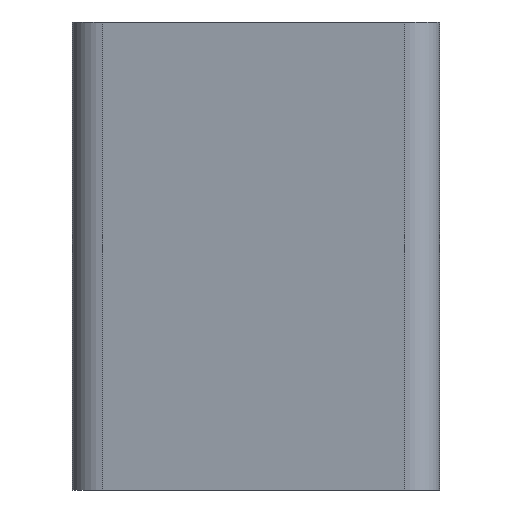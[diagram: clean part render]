
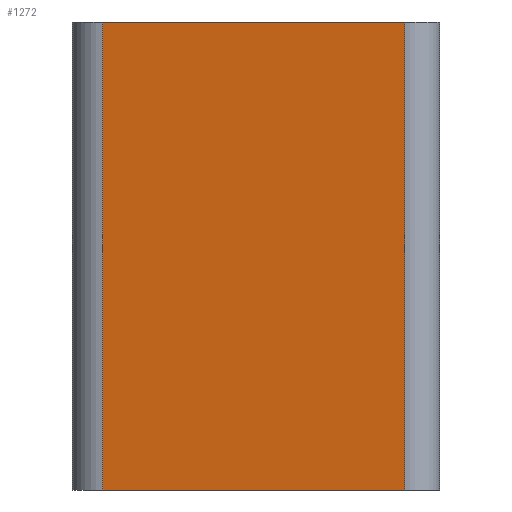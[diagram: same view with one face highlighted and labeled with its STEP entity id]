
A CAD part, left-side view. The second image highlights one B-rep face of the part: STEP entity #1272.
In plain terms, the highlighted planar face has unit normal (-0.985, 0.174, 0).
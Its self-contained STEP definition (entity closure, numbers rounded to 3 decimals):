
#66=DIRECTION('',(0.174,0.985,0.));
#67=VECTOR('',#66,45.871);
#68=CARTESIAN_POINT('',(-77.5,5.281,35.));
#69=LINE('',#68,#67);
#475=DIRECTION('',(0.,0.,1.));
#476=VECTOR('',#475,70.);
#477=CARTESIAN_POINT('',(-69.535,50.455,-35.));
#478=LINE('',#477,#476);
#484=DIRECTION('',(0.,0.,1.));
#485=VECTOR('',#484,70.);
#486=CARTESIAN_POINT('',(-77.5,5.281,-35.));
#487=LINE('',#486,#485);
#488=DIRECTION('',(0.174,0.985,0.));
#489=VECTOR('',#488,45.871);
#490=CARTESIAN_POINT('',(-77.5,5.281,-35.));
#491=LINE('',#490,#489);
#697=CARTESIAN_POINT('',(-69.535,50.455,-35.));
#698=CARTESIAN_POINT('',(-69.535,50.455,35.));
#699=VERTEX_POINT('',#697);
#700=VERTEX_POINT('',#698);
#705=CARTESIAN_POINT('',(-77.5,5.281,-35.));
#706=VERTEX_POINT('',#705);
#707=CARTESIAN_POINT('',(-77.5,5.281,35.));
#708=VERTEX_POINT('',#707);
#1260=CARTESIAN_POINT('',(-77.5,5.281,-35.));
#1261=DIRECTION('',(-0.985,0.174,0.));
#1262=DIRECTION('',(0.,0.,1.));
#1263=AXIS2_PLACEMENT_3D('',#1260,#1261,#1262);
#1264=PLANE('',#1263);
#1266=ORIENTED_EDGE('',*,*,#1265,.F.);
#1267=ORIENTED_EDGE('',*,*,#957,.T.);
#1268=ORIENTED_EDGE('',*,*,#1252,.T.);
#1269=ORIENTED_EDGE('',*,*,#850,.F.);
#1270=EDGE_LOOP('',(#1266,#1267,#1268,#1269));
#1271=FACE_OUTER_BOUND('',#1270,.F.);
#1272=ADVANCED_FACE('',(#1271),#1264,.T.);
#850=EDGE_CURVE('',#708,#700,#69,.T.);
#957=EDGE_CURVE('',#706,#699,#491,.T.);
#1252=EDGE_CURVE('',#699,#700,#478,.T.);
#1265=EDGE_CURVE('',#706,#708,#487,.T.);
